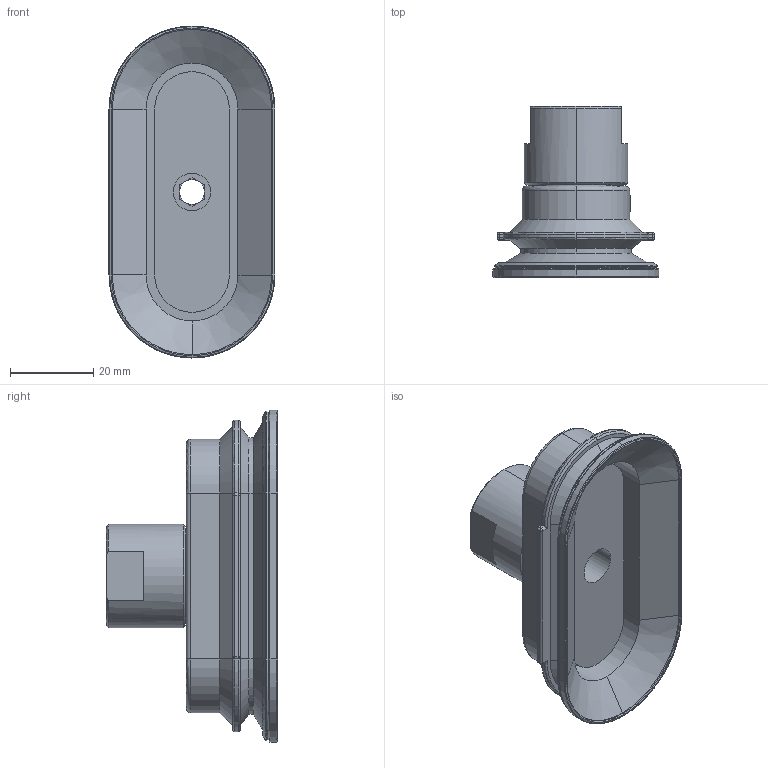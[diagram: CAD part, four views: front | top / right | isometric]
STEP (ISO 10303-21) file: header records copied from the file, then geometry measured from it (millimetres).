
FILE_DESCRIPTION (( 'STEP AP214' ), '1' );
FILE_NAME ('SAOB-80x40-G3-8IG.STEP', '2023-03-07T06:13:46', ( 'Windows User' ), ( 'P R C' ), 'SwSTEP 2.0', 'SolidWorks 2019', '' );
FILE_SCHEMA (( 'AUTOMOTIVE_DESIGN' ));
Length unit declared in the file: millimetre
Products named in the file (1): SAOB-80x40-G3-8IG
Bounding box: 40 x 41.3 x 80 mm (x, y, z)
Volume: 32282.9 mm3; surface area: 16255.7 mm2
Topology: 2 solids, 2 shells, 252 faces, 576 edges, 338 vertices
Faces by surface type: plane 96, cylinder 64, bspline 56, cone 36
Entity records: 12276 total; most frequent: CARTESIAN_POINT 3998, ORIENTED_EDGE 1144, DIRECTION 1119, EDGE_CURVE 572, AXIS2_PLACEMENT_3D 405, VERTEX_POINT 338, VECTOR 309, LINE 309
